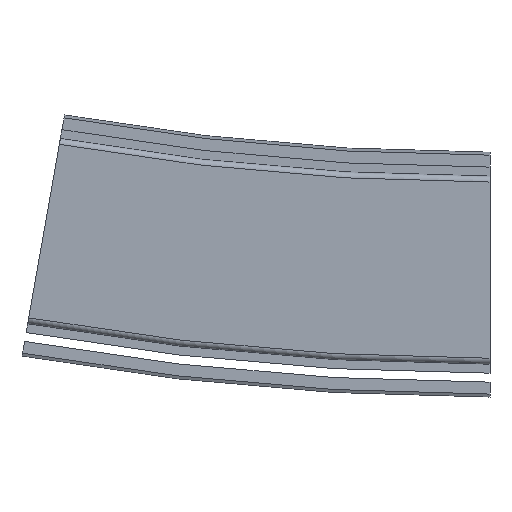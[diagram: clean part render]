
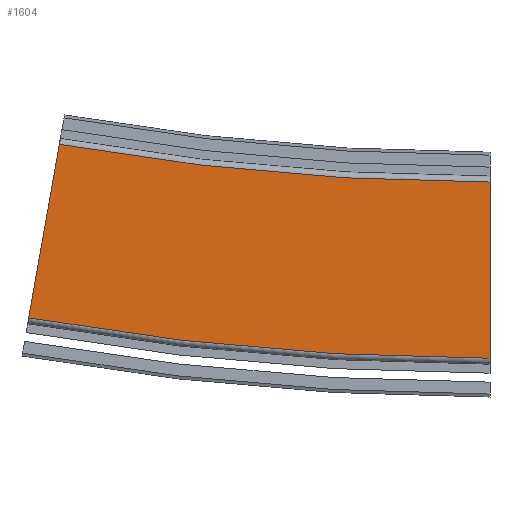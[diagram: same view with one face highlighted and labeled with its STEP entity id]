
A CAD part, front view. The second image highlights one B-rep face of the part: STEP entity #1604.
In plain terms, the highlighted planar face has unit normal (0, -1, 0).
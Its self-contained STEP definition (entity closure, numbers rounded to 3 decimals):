
#140=PLANE('',#1768);
#227=FACE_OUTER_BOUND('',#319,.T.);
#319=EDGE_LOOP('',(#1408,#1409,#1410,#1411));
#361=CIRCLE('',#1715,830.5);
#380=CIRCLE('',#1751,889.5);
#512=LINE('',#7343,#638);
#513=LINE('',#7344,#639);
#638=VECTOR('',#2170,10.);
#639=VECTOR('',#2171,10.);
#748=VERTEX_POINT('',#7193);
#749=VERTEX_POINT('',#7195);
#780=VERTEX_POINT('',#7292);
#782=VERTEX_POINT('',#7295);
#955=EDGE_CURVE('',#748,#749,#361,.T.);
#1004=EDGE_CURVE('',#780,#782,#380,.T.);
#1028=EDGE_CURVE('',#748,#780,#512,.T.);
#1029=EDGE_CURVE('',#782,#749,#513,.T.);
#1408=ORIENTED_EDGE('',*,*,#1028,.F.);
#1409=ORIENTED_EDGE('',*,*,#955,.T.);
#1410=ORIENTED_EDGE('',*,*,#1029,.F.);
#1411=ORIENTED_EDGE('',*,*,#1004,.F.);
#1604=ADVANCED_FACE('',(#227),#140,.T.);
#1715=AXIS2_PLACEMENT_3D('',#7197,#2018,#2019);
#1751=AXIS2_PLACEMENT_3D('',#7296,#2120,#2121);
#1768=AXIS2_PLACEMENT_3D('',#7342,#2168,#2169);
#2018=DIRECTION('center_axis',(0.,1.,0.));
#2019=DIRECTION('ref_axis',(0.,0.,-1.));
#2120=DIRECTION('center_axis',(0.,1.,0.));
#2121=DIRECTION('ref_axis',(0.,0.,-1.));
#2168=DIRECTION('center_axis',(0.,-1.,0.));
#2169=DIRECTION('ref_axis',(0.,0.,-1.));
#2170=DIRECTION('',(0.,0.,-1.));
#2171=DIRECTION('',(0.174,0.,0.985));
#7193=CARTESIAN_POINT('',(0.,-73.,29.5));
#7195=CARTESIAN_POINT('',(-144.215,-73.,42.117));
#7197=CARTESIAN_POINT('Origin',(0.,-73.,
860.));
#7292=CARTESIAN_POINT('',(0.,-73.,-29.5));
#7295=CARTESIAN_POINT('',(-154.46,-73.,-15.986));
#7296=CARTESIAN_POINT('Origin',(0.,-73.,
860.));
#7342=CARTESIAN_POINT('Origin',(0.,-73.,-5.5));
#7343=CARTESIAN_POINT('',(0.,-73.,5.5));
#7344=CARTESIAN_POINT('',(-150.292,-73.,7.649));
